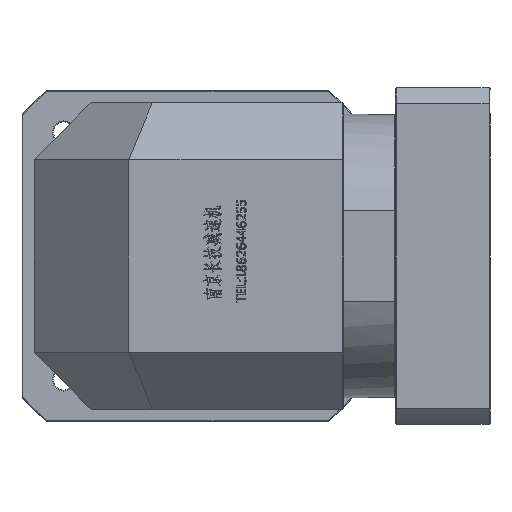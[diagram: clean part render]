
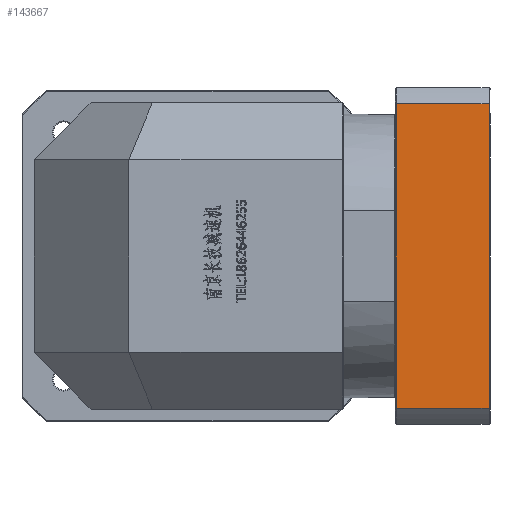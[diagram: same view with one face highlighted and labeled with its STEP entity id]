
A CAD part, left-side view. The second image highlights one B-rep face of the part: STEP entity #143667.
In plain terms, the highlighted planar face has unit normal (-1, 0, 0).
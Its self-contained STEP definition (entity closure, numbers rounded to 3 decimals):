
#5663 = CARTESIAN_POINT ( 'NONE',  ( -127.111, -192.196, 333.075 ) ) ;
#7548 = CARTESIAN_POINT ( 'NONE',  ( -127.111, -241.196, 163.583 ) ) ;
#9642 = VECTOR ( 'NONE', #9761, 1000. ) ;
#9754 = DIRECTION ( 'NONE',  ( 0., 0., -1. ) ) ;
#9761 = DIRECTION ( 'NONE',  ( 0., -1., 0. ) ) ;
#13456 = AXIS2_PLACEMENT_3D ( 'NONE', #140635, #141615, #40547 ) ;
#16408 = VERTEX_POINT ( 'NONE', #75559 ) ;
#16473 = EDGE_CURVE ( 'NONE', #89776, #16408, #120263, .T. ) ;
#20058 = FACE_OUTER_BOUND ( 'NONE', #137679, .T. ) ;
#23247 = CARTESIAN_POINT ( 'NONE',  ( -127.111, -241.196, 172.091 ) ) ;
#26690 = CARTESIAN_POINT ( 'NONE',  ( -127.111, -192.196, 172.091 ) ) ;
#27778 = EDGE_CURVE ( 'NONE', #16408, #89975, #99590, .T. ) ;
#33659 = LINE ( 'NONE', #47188, #63530 ) ;
#34779 = ORIENTED_EDGE ( 'NONE', *, *, #27778, .F. ) ;
#37106 = VERTEX_POINT ( 'NONE', #26690 ) ;
#39893 = VECTOR ( 'NONE', #98345, 1000. ) ;
#40547 = DIRECTION ( 'NONE',  ( 0., 1., 0. ) ) ;
#42350 = ORIENTED_EDGE ( 'NONE', *, *, #16473, .F. ) ;
#47188 = CARTESIAN_POINT ( 'NONE',  ( -127.111, 151.11, 172.091 ) ) ;
#54448 = CARTESIAN_POINT ( 'NONE',  ( -127.111, -241.696, 333.075 ) ) ;
#63530 = VECTOR ( 'NONE', #104165, 1000. ) ;
#75280 = EDGE_CURVE ( 'NONE', #89776, #37106, #120370, .T. ) ;
#75559 = CARTESIAN_POINT ( 'NONE',  ( -127.111, -241.196, 333.075 ) ) ;
#86153 = PLANE ( 'NONE',  #13456 ) ;
#89776 = VERTEX_POINT ( 'NONE', #5663 ) ;
#89975 = VERTEX_POINT ( 'NONE', #23247 ) ;
#93910 = ORIENTED_EDGE ( 'NONE', *, *, #75280, .T. ) ;
#98345 = DIRECTION ( 'NONE',  ( 0., 0., -1. ) ) ;
#99590 = LINE ( 'NONE', #7548, #39893 ) ;
#103404 = EDGE_CURVE ( 'NONE', #89975, #37106, #33659, .T. ) ;
#103776 = ORIENTED_EDGE ( 'NONE', *, *, #103404, .F. ) ;
#104165 = DIRECTION ( 'NONE',  ( 0., 1., 0. ) ) ;
#115403 = CARTESIAN_POINT ( 'NONE',  ( -127.111, -192.196, 163.583 ) ) ;
#120263 = LINE ( 'NONE', #54448, #9642 ) ;
#120370 = LINE ( 'NONE', #115403, #127346 ) ;
#127346 = VECTOR ( 'NONE', #9754, 1000. ) ;
#137679 = EDGE_LOOP ( 'NONE', ( #42350, #93910, #103776, #34779 ) ) ;
#140635 = CARTESIAN_POINT ( 'NONE',  ( -127.111, -241.696, 163.583 ) ) ;
#141615 = DIRECTION ( 'NONE',  ( 1., 0., 0. ) ) ;
#143667 = ADVANCED_FACE ( 'NONE', ( #20058 ), #86153, .F. ) ;
